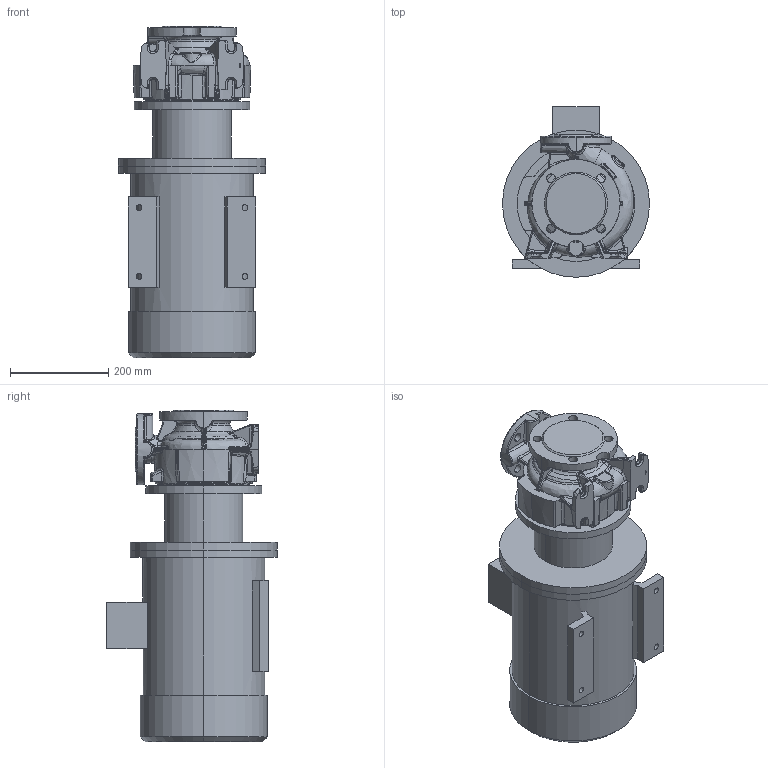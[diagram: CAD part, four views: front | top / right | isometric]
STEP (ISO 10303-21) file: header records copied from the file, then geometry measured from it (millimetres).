
FILE_DESCRIPTION (( 'STEP AP214' ), '1' );
FILE_NAME ('KRM 65-40-125-2-5,5.STEP', '2026-04-24T07:31:38', ( '' ), ( '' ), 'SwSTEP 2.0', 'SolidWorks 2016', '' );
FILE_SCHEMA (( 'AUTOMOTIVE_DESIGN' ));
Length unit declared in the file: millimetre
Products named in the file (1): KRM 65-40-125-2-5,5
Bounding box: 300 x 348 x 676.3 mm (x, y, z)
Volume: 29954622.4 mm3; surface area: 1195523.1 mm2
Topology: 5 solids, 5 shells, 948 faces, 2260 edges, 1310 vertices
Faces by surface type: bspline 403, cylinder 213, plane 158, torus 70, sphere 54, cone 50
Entity records: 70070 total; most frequent: CARTESIAN_POINT 40982, ORIENTED_EDGE 4456, DIRECTION 3206, EDGE_CURVE 2228, AXIS2_PLACEMENT_3D 1376, VERTEX_POINT 1306, EDGE_LOOP 988, UNCERTAINTY_MEASURE_WITH_UNIT 955
